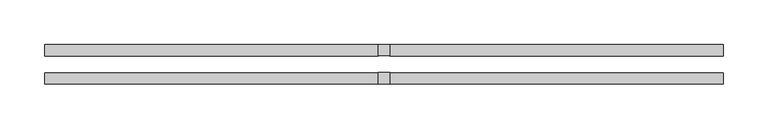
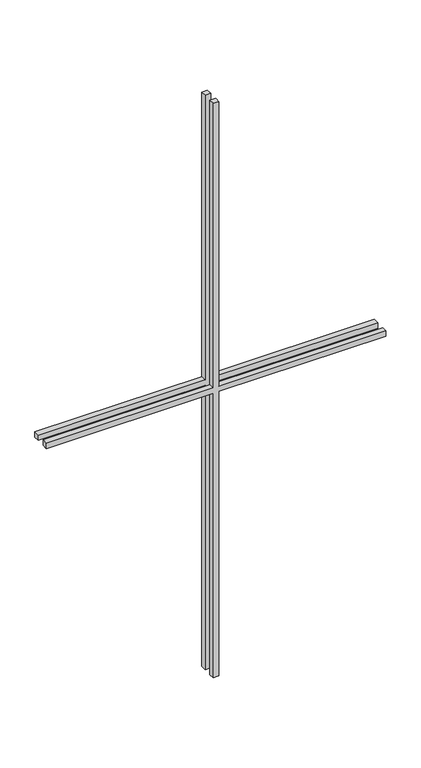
"""IFC4 building model written with IfcOpenShell, lengths in millimetres: proxy geometry, M_Vzor mezilehlého svislého vlysu_2x2 : M_Vzor mezilehlého svislého vlysu_2x2."""

from ifc_helpers import new_model, si_unit, frame, origin, place, context, project, spatial, polyline, outline, extrude, source, transform, mapped, element, save


def generic_models_a6b4e963(model_context):
    return source(origin(), model_context, "Body", "SweptSolid", [
        extrude(outline(polyline([(686.5, -6.35), (686.5, -380.15), (673.8, -380.15), (673.8, -6.35), (0.0, -6.35), (0.0, 6.35), (673.8, 6.35), (673.8, 380.15), (686.5, 380.15), (686.5, 6.35), (1360.3, 6.35), (1360.3, -6.35), (686.5, -6.35)])), frame((0.0, 9.525, 0.0), z_axis=(0.0, 1.0, 0.0), x_axis=(0.0, 0.0, 1.0)), (0.0, 0.0, 1.0), 12.7),
        extrude(outline(polyline([(686.5, -6.35), (686.5, -380.15), (673.8, -380.15), (673.8, -6.35), (0.0, -6.35), (0.0, 6.35), (673.8, 6.35), (673.8, 380.15), (686.5, 380.15), (686.5, 6.35), (1360.3, 6.35), (1360.3, -6.35), (686.5, -6.35)])), frame((0.0, -22.225, 0.0), z_axis=(0.0, 1.0, 0.0), x_axis=(0.0, 0.0, 1.0)), (0.0, 0.0, 1.0), 12.7),
    ])


if __name__ == "__main__":
    model = new_model("IFC4")
    model_context = context("Model", 3, world=origin())
    ifc_project = project(units=[si_unit("LENGTHUNIT", "METRE", prefix="MILLI")], contexts=[model_context])
    site = spatial("IfcSite", under=ifc_project)
    building = spatial("IfcBuilding", under=site)
    placement = place(None, origin())
    generic_models_shape = generic_models_a6b4e963(model_context)
    element("IfcBuildingElementProxy", 1, Name="M_Vzor mezilehlého svislého vlysu_2x2 : M_Vzor mezilehlého svislého vlysu_2x2", ObjectType="M_Vzor mezilehlého svislého vlysu_2x2 : M_Vzor mezilehlého svislého vlysu_2x2", at=placement, inside=building, context=model_context, shape_type="MappedRepresentation", body=[
        mapped(generic_models_shape, transform((0.0, 0.0, 0.0), x_axis=(1.0, 0.0, 0.0), y_axis=(0.0, 1.0, 0.0), z_axis=(0.0, 0.0, 1.0))),
    ])
    save(model, "model.ifc")
